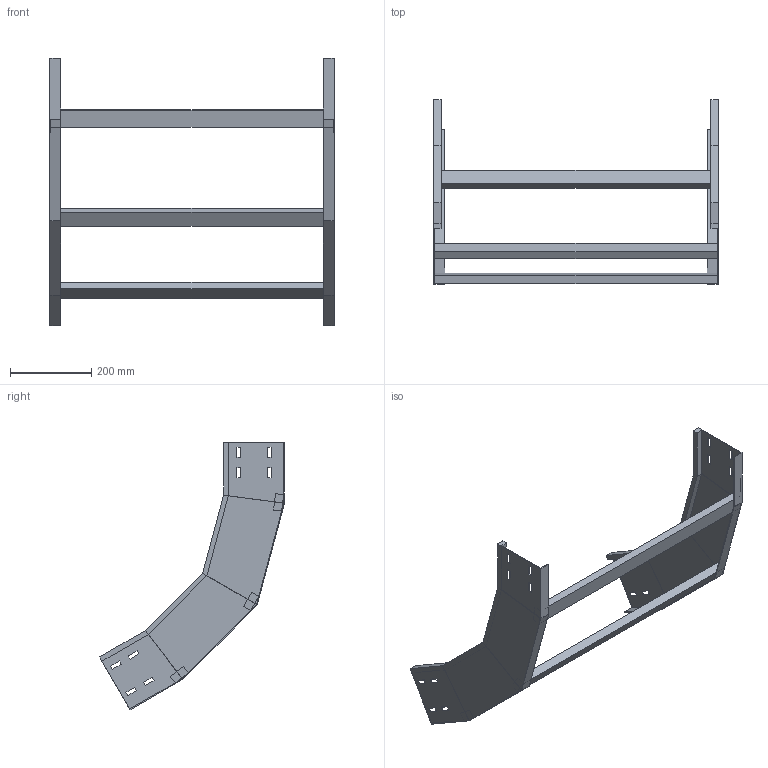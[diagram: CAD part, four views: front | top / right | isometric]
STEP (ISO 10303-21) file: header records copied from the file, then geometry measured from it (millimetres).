
FILE_DESCRIPTION (( 'STEP AP214' ), '1' );
FILE_NAME ('40J5F700.step', '2025-02-21T16:27:02', ( '' ), ( '' ), 'SwSTEP 2.0', 'SolidWorks 2023', '' );
FILE_SCHEMA (( 'AUTOMOTIVE_DESIGN' ));
Length unit declared in the file: millimetre
Products named in the file (3): 40J5F700; LONGH.SALITA_60°_H150_R500; TRAVERSINO_700
Assembly tree (5 placements, depth 2):
  40J5F700
    LONGH.SALITA_60°_H150_R500  x2
    TRAVERSINO_700  x3
Bounding box: 700 x 455.08 x 658.32 mm (x, y, z)
Volume: 2464120.4 mm3; surface area: 827799.3 mm2
Topology: 5 solids, 5 shells, 150 faces, 372 edges, 232 vertices
Faces by surface type: plane 150
Entity records: 2216 total; most frequent: CARTESIAN_POINT 372, ORIENTED_EDGE 360, DIRECTION 340, LINE 180, VECTOR 180, EDGE_CURVE 180, VERTEX_POINT 112, EDGE_LOOP 88
